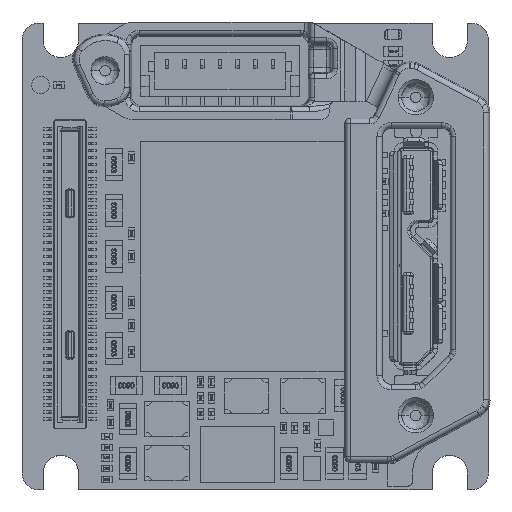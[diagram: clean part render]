
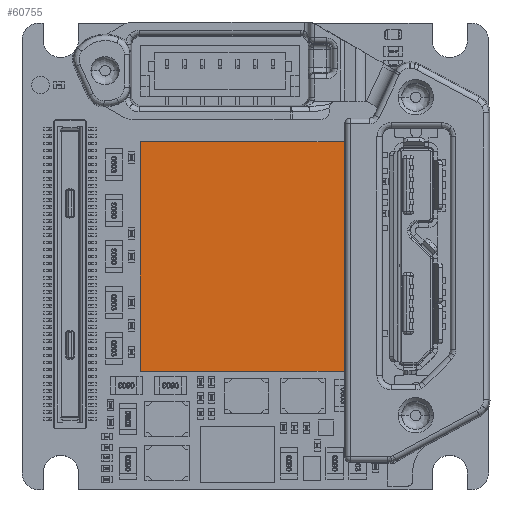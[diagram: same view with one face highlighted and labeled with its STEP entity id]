
A CAD part, top view. The second image highlights one B-rep face of the part: STEP entity #60755.
In plain terms, the highlighted planar face has unit normal (0, 0, 1).
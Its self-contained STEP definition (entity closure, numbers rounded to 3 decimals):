
#3353 = VECTOR ( 'NONE', #235133, 1000. ) ;
#23253 = ORIENTED_EDGE ( 'NONE', *, *, #77568, .F. ) ;
#46026 = ORIENTED_EDGE ( 'NONE', *, *, #530966, .F. ) ;
#50564 = EDGE_LOOP ( 'NONE', ( #359885, #46026, #23253, #431908 ) ) ;
#58378 = DIRECTION ( 'NONE',  ( -1., 0., 0. ) ) ;
#60755 = ADVANCED_FACE ( 'NONE', ( #439814 ), #266400, .F. ) ;
#69891 = AXIS2_PLACEMENT_3D ( 'NONE', #168131, #305297, #215753 ) ;
#72871 = DIRECTION ( 'NONE',  ( 0., 1., 0. ) ) ;
#77568 = EDGE_CURVE ( 'NONE', #88352, #582475, #590726, .T. ) ;
#88352 = VERTEX_POINT ( 'NONE', #555569 ) ;
#168131 = CARTESIAN_POINT ( 'NONE',  ( 0., 0., 6.237 ) ) ;
#175987 = CARTESIAN_POINT ( 'NONE',  ( 6.5, 6.5, 6.237 ) ) ;
#184533 = CARTESIAN_POINT ( 'NONE',  ( -6.5, 6.5, 6.237 ) ) ;
#215753 = DIRECTION ( 'NONE',  ( 0., -1., 0. ) ) ;
#220771 = LINE ( 'NONE', #175987, #397196 ) ;
#235133 = DIRECTION ( 'NONE',  ( 1., 0., 0. ) ) ;
#266400 = PLANE ( 'NONE',  #69891 ) ;
#282636 = CARTESIAN_POINT ( 'NONE',  ( -6.5, -6.5, 6.237 ) ) ;
#291001 = VECTOR ( 'NONE', #72871, 1000. ) ;
#294341 = LINE ( 'NONE', #476538, #476111 ) ;
#305297 = DIRECTION ( 'NONE',  ( 0., 0., -1. ) ) ;
#314611 = CARTESIAN_POINT ( 'NONE',  ( -6.5, -6.5, 6.237 ) ) ;
#359434 = LINE ( 'NONE', #314611, #291001 ) ;
#359885 = ORIENTED_EDGE ( 'NONE', *, *, #501546, .F. ) ;
#397196 = VECTOR ( 'NONE', #540239, 1000. ) ;
#431908 = ORIENTED_EDGE ( 'NONE', *, *, #507657, .F. ) ;
#439814 = FACE_OUTER_BOUND ( 'NONE', #50564, .T. ) ;
#476111 = VECTOR ( 'NONE', #58378, 1000. ) ;
#476538 = CARTESIAN_POINT ( 'NONE',  ( 6.5, -6.5, 6.237 ) ) ;
#476884 = VERTEX_POINT ( 'NONE', #282636 ) ;
#480457 = CARTESIAN_POINT ( 'NONE',  ( 6.5, 6.5, 6.237 ) ) ;
#493555 = VERTEX_POINT ( 'NONE', #556536 ) ;
#501546 = EDGE_CURVE ( 'NONE', #493555, #476884, #294341, .T. ) ;
#507657 = EDGE_CURVE ( 'NONE', #476884, #88352, #359434, .T. ) ;
#530966 = EDGE_CURVE ( 'NONE', #582475, #493555, #220771, .T. ) ;
#540239 = DIRECTION ( 'NONE',  ( 0., -1., 0. ) ) ;
#555569 = CARTESIAN_POINT ( 'NONE',  ( -6.5, 6.5, 6.237 ) ) ;
#556536 = CARTESIAN_POINT ( 'NONE',  ( 6.5, -6.5, 6.237 ) ) ;
#582475 = VERTEX_POINT ( 'NONE', #480457 ) ;
#590726 = LINE ( 'NONE', #184533, #3353 ) ;
